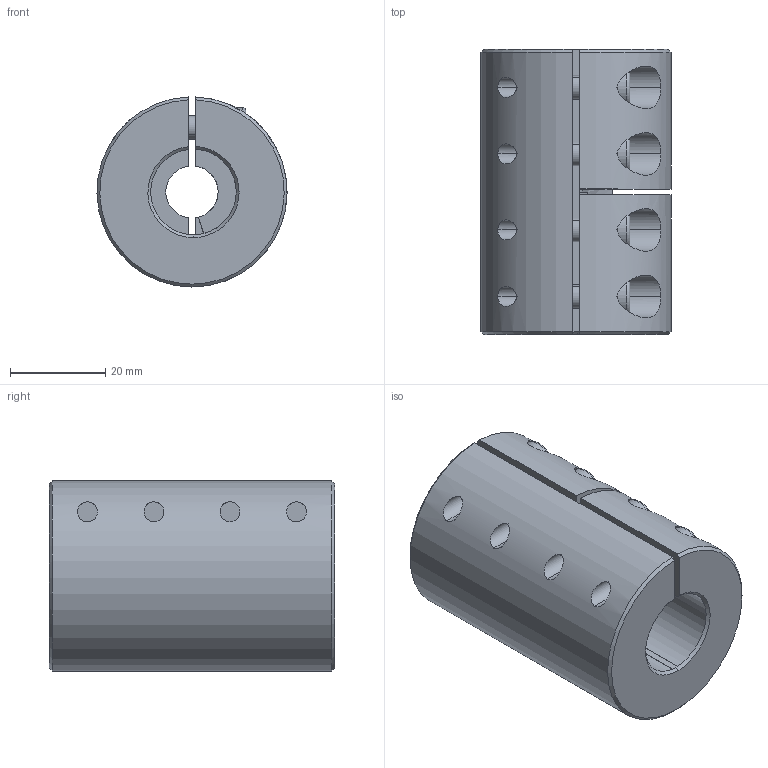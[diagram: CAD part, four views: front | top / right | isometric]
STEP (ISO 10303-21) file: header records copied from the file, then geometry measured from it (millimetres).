
FILE_DESCRIPTION (( 'STEP AP214' ), '1' );
FILE_NAME ('LL-B-D40L60-11-18½¨Ä£.STEP', '2022-07-22T00:56:55', ( '' ), ( '' ), 'SwSTEP 2.0', 'SolidWorks 2022', '' );
FILE_SCHEMA (( 'AUTOMOTIVE_DESIGN' ));
Length unit declared in the file: millimetre
Products named in the file (1): LL-B-D40L60-11-18膘耀
Bounding box: 40 x 60 x 39.99 mm (x, y, z)
Volume: 61561.7 mm3; surface area: 17441 mm2
Topology: 1 solids, 1 shells, 182 faces, 463 edges, 291 vertices
Faces by surface type: plane 88, cylinder 71, cone 15, torus 8
Entity records: 6017 total; most frequent: CARTESIAN_POINT 1531, DIRECTION 969, ORIENTED_EDGE 910, EDGE_CURVE 455, AXIS2_PLACEMENT_3D 377, VERTEX_POINT 291, VECTOR 215, LINE 215
